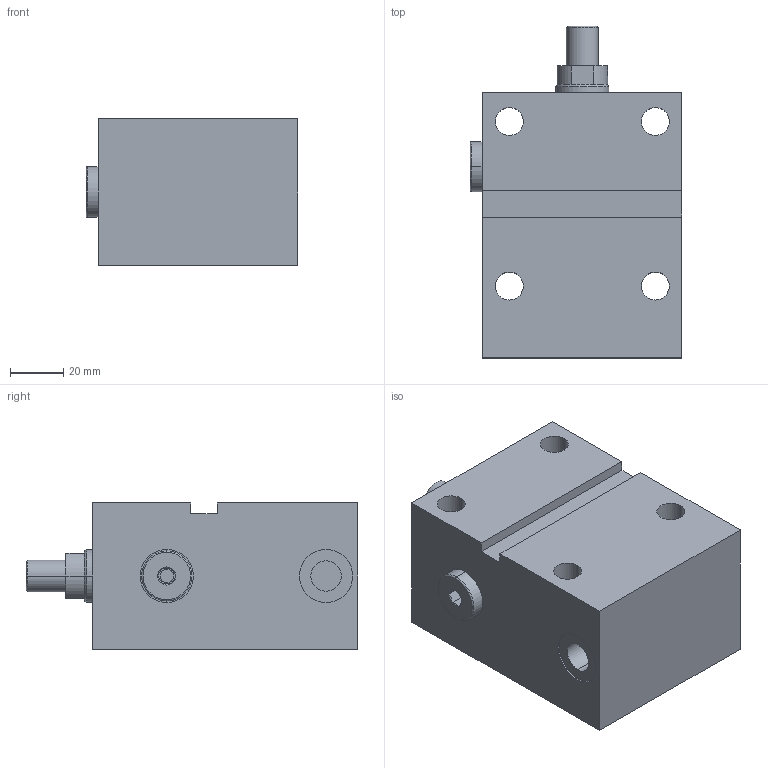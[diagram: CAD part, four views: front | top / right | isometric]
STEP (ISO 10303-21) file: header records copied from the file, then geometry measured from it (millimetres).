
FILE_DESCRIPTION (( 'STEP AP203' ), '1' );
FILE_NAME ('GERMA_Blockzylinder_651-032-020-A.STEP', '2023-08-26T14:48:35', ( '' ), ( '' ), 'SwSTEP 2.0', 'SolidWorks 2016', '' );
FILE_SCHEMA (( 'CONFIG_CONTROL_DESIGN' ));
Length unit declared in the file: millimetre
Products named in the file (3): GERMA_Blockzylinder_651-032-020-A; GH-600-032-ew_GH-651-032-020; Kolben 60x-032_Kolben DU.32-Hub50-AG
Assembly tree (2 placements, depth 2):
  GERMA_Blockzylinder_651-032-020-A
    GH-600-032-ew_GH-651-032-020
    Kolben 60x-032_Kolben DU.32-Hub50-AG
Bounding box: 79.8 x 125 x 55 mm (x, y, z)
Volume: 381852.5 mm3; surface area: 59494.1 mm2
Topology: 2 solids, 2 shells, 95 faces, 217 edges, 137 vertices
Faces by surface type: cylinder 39, plane 35, cone 19, torus 2
Entity records: 3037 total; most frequent: CARTESIAN_POINT 513, DIRECTION 506, ORIENTED_EDGE 426, EDGE_CURVE 213, AXIS2_PLACEMENT_3D 200, VERTEX_POINT 137, EDGE_LOOP 118, LINE 106
